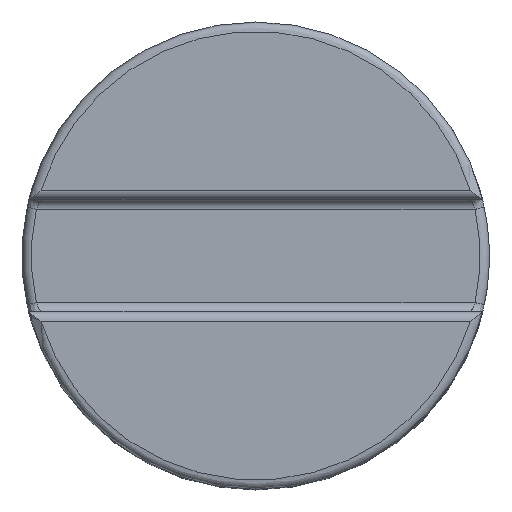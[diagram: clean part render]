
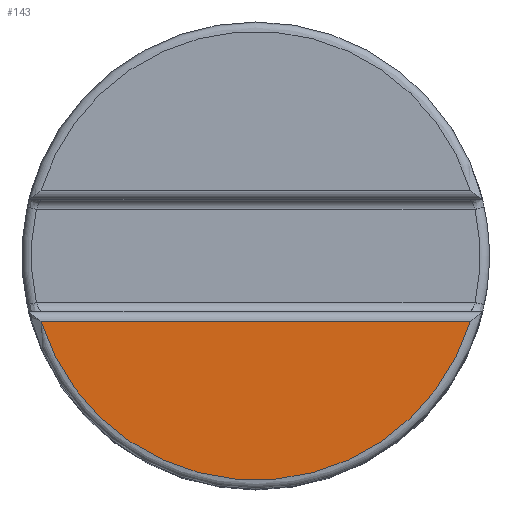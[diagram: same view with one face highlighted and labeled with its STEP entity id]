
A CAD part, top view. The second image highlights one B-rep face of the part: STEP entity #143.
In plain terms, the highlighted planar face has unit normal (0, 0, 1).
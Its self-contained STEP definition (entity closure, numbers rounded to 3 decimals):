
#143=ADVANCED_FACE('',(#379),#381,.T.);
#379=FACE_BOUND('',#380,.T.);
#380=EDGE_LOOP('',(#839,#840));
#381=PLANE('',#382);
#382=AXIS2_PLACEMENT_3D('',#383,#384,#385);
#383=CARTESIAN_POINT('',(0.,0.,12.3));
#384=DIRECTION('',(0.,0.,1.));
#385=DIRECTION('',(1.,0.,0.));
#839=ORIENTED_EDGE('',*,*,#942,.T.);
#840=ORIENTED_EDGE('',*,*,#943,.T.);
#942=EDGE_CURVE('',#1034,#1035,#1036,.T.);
#943=EDGE_CURVE('',#1035,#1034,#1037,.F.);
#1034=VERTEX_POINT('',#1449);
#1035=VERTEX_POINT('',#1450);
#1036=CIRCLE('',#1451,2.4);
#1037=LINE('',#1455,#1456);
#1449=CARTESIAN_POINT('',(-2.296,-0.7,12.3));
#1450=CARTESIAN_POINT('',(2.296,-0.7,12.3));
#1451=AXIS2_PLACEMENT_3D('',#1452,#1453,#1454);
#1452=CARTESIAN_POINT('',(0.,0.,12.3));
#1453=DIRECTION('',(0.,0.,1.));
#1454=DIRECTION('',(-0.957,-0.292,0.));
#1455=CARTESIAN_POINT('',(-2.296,-0.7,12.3));
#1456=VECTOR('',#1457,1.);
#1457=DIRECTION('',(1.,0.,0.));
